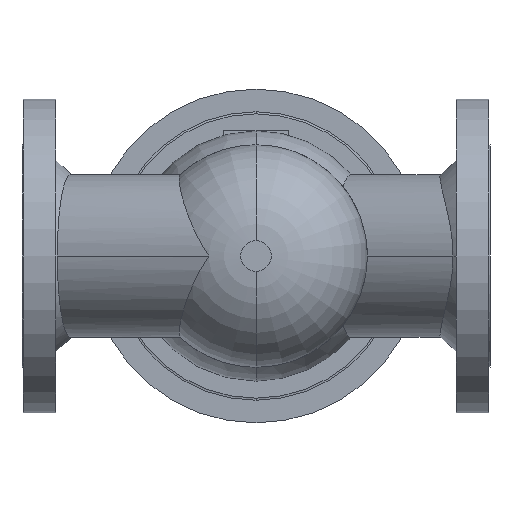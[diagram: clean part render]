
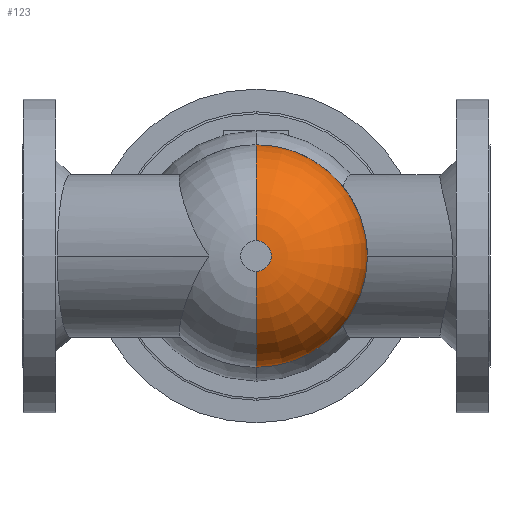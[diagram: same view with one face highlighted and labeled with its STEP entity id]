
A CAD part, front view. The second image highlights one B-rep face of the part: STEP entity #123.
In plain terms, the highlighted toroidal (fillet/blend) face has major radius 18.5 mm and minor radius 116.5 mm.
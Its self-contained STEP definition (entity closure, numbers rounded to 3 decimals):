
#123 = ADVANCED_FACE( '', ( #319 ), #320, .T. );
#319 = FACE_OUTER_BOUND( '', #782, .T. );
#320 = TOROIDAL_SURFACE( '', #783, 18.5, 116.5 );
#782 = EDGE_LOOP( '', ( #1245, #1246, #1247, #1248, #1249, #1250 ) );
#783 = AXIS2_PLACEMENT_3D( '', #1251, #1252, #1253 );
#1245 = ORIENTED_EDGE( '', *, *, #2820, .F. );
#1246 = ORIENTED_EDGE( '', *, *, #2821, .T. );
#1247 = ORIENTED_EDGE( '', *, *, #2822, .T. );
#1248 = ORIENTED_EDGE( '', *, *, #2823, .F. );
#1249 = ORIENTED_EDGE( '', *, *, #2824, .F. );
#1250 = ORIENTED_EDGE( '', *, *, #2825, .F. );
#1251 = CARTESIAN_POINT( '', ( 284., -69.5, 0. ) );
#1252 = DIRECTION( '', ( 0., 1., 0. ) );
#1253 = DIRECTION( '', ( 0., 0., 1. ) );
#2820 = EDGE_CURVE( '', #3315, #3316, #3317, .T. );
#2821 = EDGE_CURVE( '', #3315, #3318, #3319, .T. );
#2822 = EDGE_CURVE( '', #3318, #3320, #3321, .T. );
#2823 = EDGE_CURVE( '', #3322, #3320, #3323, .T. );
#2824 = EDGE_CURVE( '', #3324, #3322, #3325, .T. );
#2825 = EDGE_CURVE( '', #3316, #3324, #3326, .T. );
#3315 = VERTEX_POINT( '', #4139 );
#3316 = VERTEX_POINT( '', #4140 );
#3317 = CIRCLE( '', #4141, 116.5 );
#3318 = VERTEX_POINT( '', #4142 );
#3319 = CIRCLE( '', #4143, 18.5 );
#3320 = VERTEX_POINT( '', #4144 );
#3321 = CIRCLE( '', #4145, 18.5 );
#3322 = VERTEX_POINT( '', #4146 );
#3323 = CIRCLE( '', #4147, 116.5 );
#3324 = VERTEX_POINT( '', #4148 );
#3325 = CIRCLE( '', #4149, 135. );
#3326 = CIRCLE( '', #4150, 135. );
#4139 = CARTESIAN_POINT( '', ( 284., -186., 18.5 ) );
#4140 = CARTESIAN_POINT( '', ( 284., -69.5, 135. ) );
#4141 = AXIS2_PLACEMENT_3D( '', #5734, #5735, #5736 );
#4142 = CARTESIAN_POINT( '', ( 302.5, -186., 0. ) );
#4143 = AXIS2_PLACEMENT_3D( '', #5737, #5738, #5739 );
#4144 = CARTESIAN_POINT( '', ( 284., -186., -18.5 ) );
#4145 = AXIS2_PLACEMENT_3D( '', #5740, #5741, #5742 );
#4146 = CARTESIAN_POINT( '', ( 284., -69.5, -135. ) );
#4147 = AXIS2_PLACEMENT_3D( '', #5743, #5744, #5745 );
#4148 = CARTESIAN_POINT( '', ( 419., -69.5, 0. ) );
#4149 = AXIS2_PLACEMENT_3D( '', #5746, #5747, #5748 );
#4150 = AXIS2_PLACEMENT_3D( '', #5749, #5750, #5751 );
#5734 = CARTESIAN_POINT( '', ( 284., -69.5, 18.5 ) );
#5735 = DIRECTION( '', ( -1., 0., 0. ) );
#5736 = DIRECTION( '', ( 0., 0., 1. ) );
#5737 = CARTESIAN_POINT( '', ( 284., -186., 0. ) );
#5738 = DIRECTION( '', ( 0., 1., 0. ) );
#5739 = DIRECTION( '', ( 1., 0., 0. ) );
#5740 = CARTESIAN_POINT( '', ( 284., -186., 0. ) );
#5741 = DIRECTION( '', ( 0., 1., 0. ) );
#5742 = DIRECTION( '', ( 1., 0., 0. ) );
#5743 = CARTESIAN_POINT( '', ( 284., -69.5, -18.5 ) );
#5744 = DIRECTION( '', ( -1., 0., 0. ) );
#5745 = DIRECTION( '', ( 0., 0., -1. ) );
#5746 = CARTESIAN_POINT( '', ( 284., -69.5, 0. ) );
#5747 = DIRECTION( '', ( 0., 1., 0. ) );
#5748 = DIRECTION( '', ( 1., 0., 0. ) );
#5749 = CARTESIAN_POINT( '', ( 284., -69.5, 0. ) );
#5750 = DIRECTION( '', ( 0., 1., 0. ) );
#5751 = DIRECTION( '', ( 1., 0., 0. ) );
